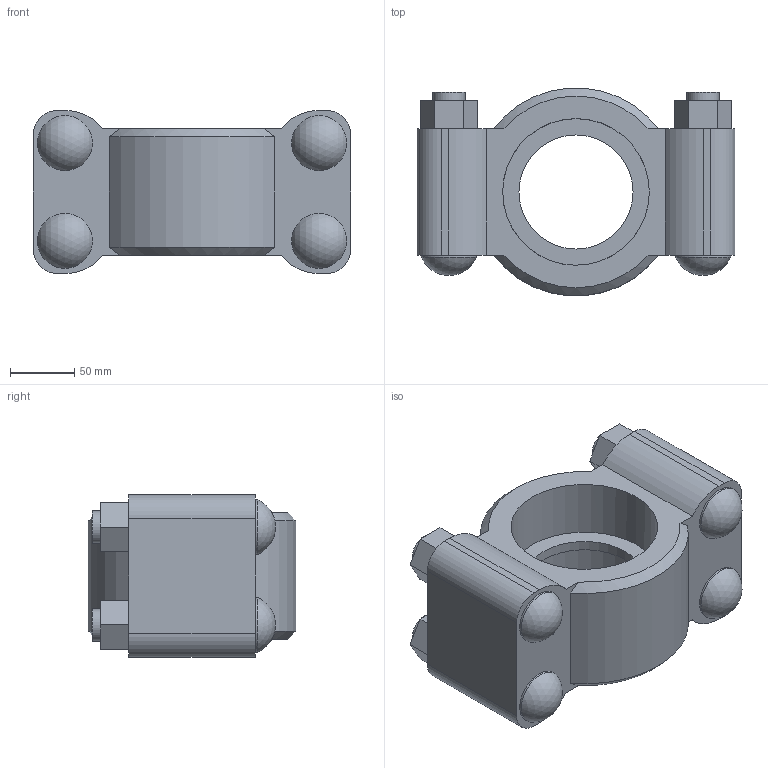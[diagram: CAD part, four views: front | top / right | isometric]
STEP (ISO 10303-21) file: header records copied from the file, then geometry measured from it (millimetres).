
FILE_DESCRIPTION(/* description */ ('VIC HIGH-PRESSURE COUPLING STYLE 809N ','CAx-IF Rec.Pracs.---Representation and Presentation of Product Manufacturing Information (PMI)---4.0---2014-10-13'),/* implementation_level */ '2;1');
FILE_NAME(/* name */ 'C:\Users\kkamble\AppData\Roaming\Autodesk\ApplicationPlugins\Back Up\Victaulic_Vic-Ring_Coupling Flexible High-Pressure_Style 809N (OGR)\Victaulic_Vic-Ring_Coupling Flexible High-Pressure_Style 809N (OGR)_4 (100).stp',/* time_stamp */ '2020-09-15T20:14:12+06:00',/* author */ ('jbrannon'),/* organization */ ('Victaulic'),/* preprocessor_version */ 'ST-DEVELOPER v17.2',/* originating_system */ 'Autodesk Inventor 2019',/* authorisation */ '');
FILE_SCHEMA (('AP242_MANAGED_MODEL_BASED_3D_ENGINEERING_MIM_LF { 1 0 10303 442 1 1 4 }'));
Length unit declared in the file: inch
Products named in the file (1): 809N-04.0
Bounding box: 247.65 x 161.49 x 127 mm (x, y, z)
Volume: 2358788.5 mm3; surface area: 216524.1 mm2
Topology: 1 solids, 9 shells, 107 faces, 245 edges, 170 vertices
Faces by surface type: plane 62, cylinder 37, sphere 4, cone 4
Full cylindrical faces by diameter (mm): 25.4 x4, 42.85 x4, 88.9 x1, 114.3 x2
Entity records: 3314 total; most frequent: DIRECTION 577, CARTESIAN_POINT 556, ORIENTED_EDGE 490, EDGE_CURVE 245, AXIS2_PLACEMENT_3D 219, VERTEX_POINT 170, LINE 139, VECTOR 139
